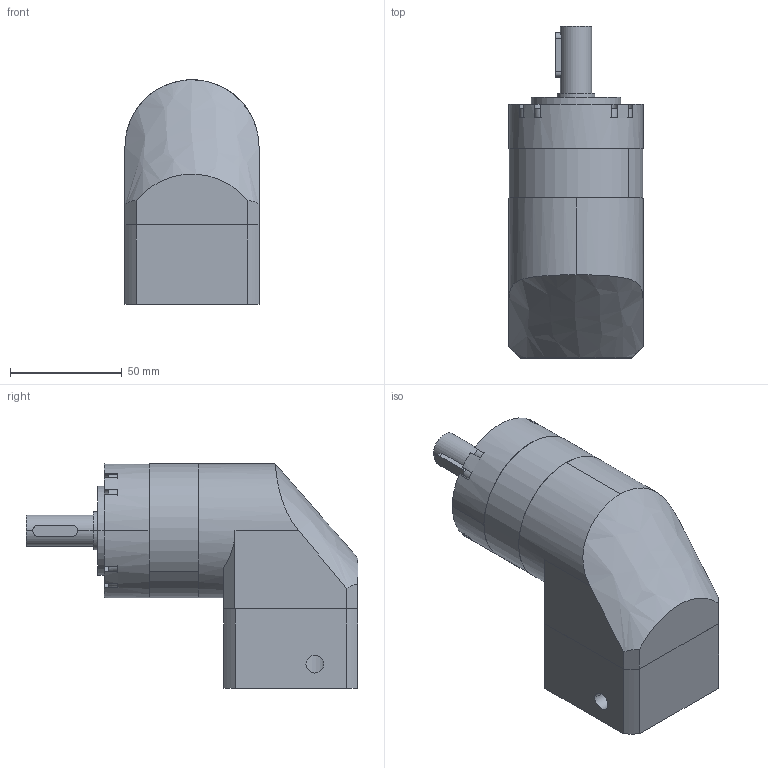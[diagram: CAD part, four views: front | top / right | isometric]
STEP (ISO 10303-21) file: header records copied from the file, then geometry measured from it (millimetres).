
FILE_DESCRIPTION (( 'STEP AP214' ), '1' );
FILE_NAME ('PER-060-L1-S2-P2 14-50-70-M4.STEP', '2023-08-30T00:43:56', ( '微软用户' ), ( '微软中国' ), 'SwSTEP 2.0', 'SolidWorks 2018', '' );
FILE_SCHEMA (( 'AUTOMOTIVE_DESIGN' ));
Length unit declared in the file: millimetre
Products named in the file (9): PER060-蟀諉啣; 邧埴瑩  5x5x20; PER060-薊粣; PER-060-L1-S2-P2 14-50-70-M4; PER060-眊极_揤翉; 囀鞠褒蹟佪-M5℅16; 双列角接触球轴承 5203_2; PER060 奻屳唳; PER060 κｳﾝﾈｦ_ﾒｻｼｶﾄﾚｳﾝﾈｦ
Assembly tree (8 placements, depth 2):
  PER-060-L1-S2-P2 14-50-70-M4
    PER060 奻屳唳
    PER060-薊粣
    双列角接触球轴承 5203_2
    PER060-蟀諉啣
    囀鞠褒蹟佪-M5℅16
    邧埴瑩  5x5x20
    PER060-眊极_揤翉
    PER060 κｳﾝﾈｦ_ﾒｻｼｶﾄﾚｳﾝﾈｦ
Bounding box: 60 x 148.5 x 100.5 mm (x, y, z)
Volume: 408022.5 mm3; surface area: 92344.6 mm2
Topology: 8 solids, 8 shells, 517 faces, 1435 edges, 924 vertices
Faces by surface type: cylinder 189, plane 164, bspline 125, cone 39
Entity records: 25757 total; most frequent: CARTESIAN_POINT 7148, ORIENTED_EDGE 2786, DIRECTION 2484, EDGE_CURVE 1393, AXIS2_PLACEMENT_3D 1000, VERTEX_POINT 916, EDGE_LOOP 601, CIRCLE 597
